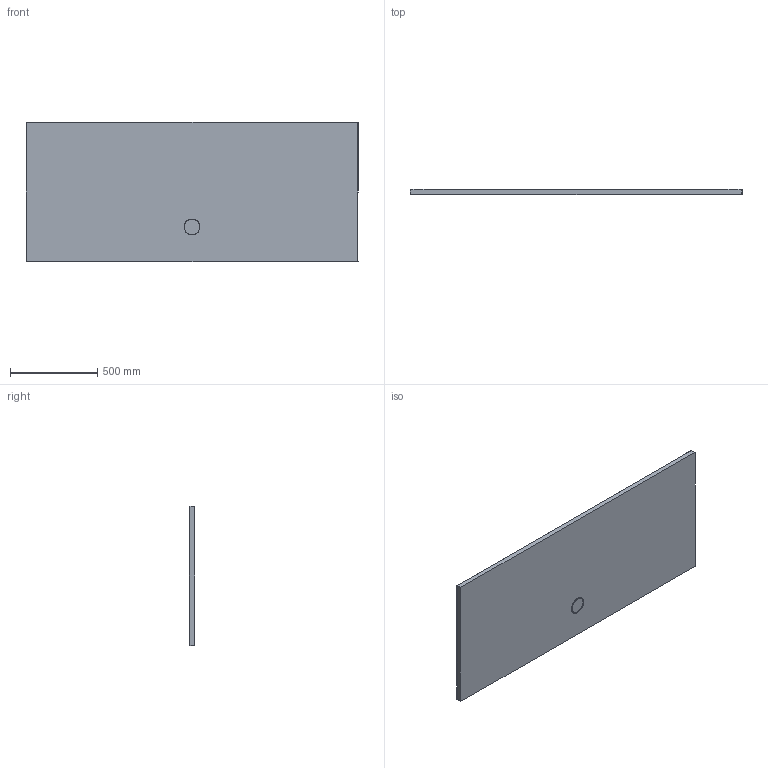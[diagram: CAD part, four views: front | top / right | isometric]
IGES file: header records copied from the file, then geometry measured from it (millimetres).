
Start section: SolidWorks IGES file using analytic representation for surfaces
Global section: file name: Y:\TKT\_PLIKI DLA ARCHITEKTÓW\02_AKRYL\BRODZIKI\seria SPACE MINERAL\IGS\B_M_80x190x1,5.IGS; native system: SolidWorks 2011; preprocessor: SolidWorks 2011; author: M.Szymanski; date: 180215.160155; units: millimetre
Bounding box: 1900 x 30 x 800 mm (x, y, z)
Surface area: 3214556 mm2 (no closed solid volume)
Topology: 0 solids, 0 shells, 61 faces, 739 edges, 736 vertices
Faces by surface type: bspline 39, revolution 22
